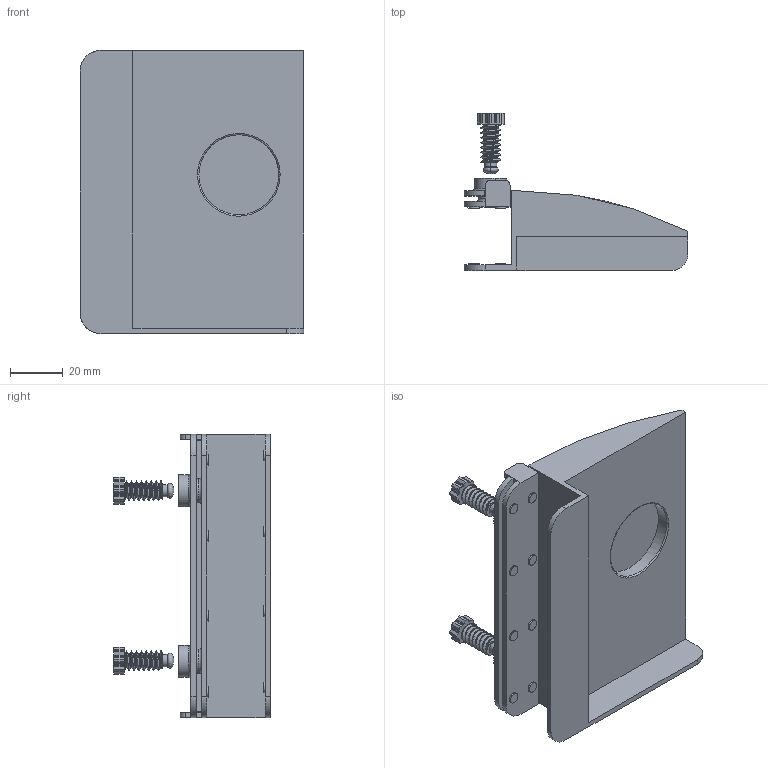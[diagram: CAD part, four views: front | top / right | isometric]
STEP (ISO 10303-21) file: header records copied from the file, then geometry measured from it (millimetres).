
FILE_DESCRIPTION(/* description */ (''),/* implementation_level */ '2;1');
FILE_NAME(/* name */ 'SUPPOR~2',/* time_stamp */ '2019-06-08T13:02:46+02:00',/* author */ (''),/* organization */ (''),/* preprocessor_version */ 'ST-DEVELOPER v16.5',/* originating_system */ '',/* authorisation */ '');
FILE_SCHEMA (('AUTOMOTIVE_DESIGN'));
Length unit declared in the file: millimetre
Products named in the file (1): Document
Bounding box: 84.62 x 59.19 x 107 mm (x, y, z)
Volume: 161507.4 mm3; surface area: 56054.3 mm2
Topology: 7 solids, 7 shells, 395 faces, 984 edges, 626 vertices
Faces by surface type: bspline 210, plane 185
Entity records: 121926 total; most frequent: CARTESIAN_POINT 115647, ORIENTED_EDGE 1972, EDGE_CURVE 986, B_SPLINE_CURVE_WITH_KNOTS 751, VERTEX_POINT 626, EDGE_LOOP 428, ADVANCED_FACE 395, FACE_OUTER_BOUND 395
